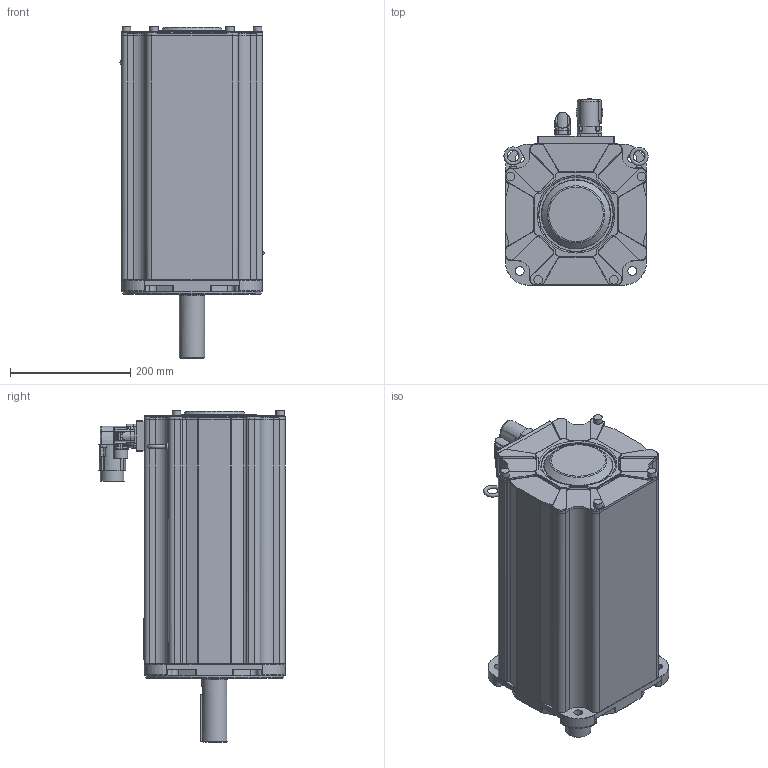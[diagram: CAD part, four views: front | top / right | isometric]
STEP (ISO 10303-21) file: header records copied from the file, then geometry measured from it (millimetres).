
FILE_DESCRIPTION((''),'2;1');
FILE_NAME('C:\CAD_work\Dummy_Modeling_Project_02-12-05\3D MODELS\MPP2308XXX_NPSB.stp','2006-02-03T10:34:28',('jevans'),(''),'Autodesk Inventor 10','Autodesk Inventor 10','');
FILE_SCHEMA(('AUTOMOTIVE_DESIGN { 1 0 10303 214 1 1 1 1 }'));
Length unit declared in the file: inch
Products named in the file (1): MPP230_MOTOR
Bounding box: 240.23 x 310.16 x 553.19 mm (x, y, z)
Volume: 21167822.5 mm3; surface area: 620621.5 mm2
Topology: 1 solids, 3 shells, 920 faces, 2327 edges, 1470 vertices
Faces by surface type: cylinder 392, plane 350, bspline 110, torus 52, cone 16
Full cylindrical faces by diameter (mm): 1.016 x17, 2 x2, 3.6 x4, 14.275 x4, 19.05 x1, 19.685 x1, 22.86 x1, 32.639 x1, 39.624 x1, 41.656 x1, 42.012 x1, 44.907 x1, 45.009 x1, 57.15 x1, 75.024 x1, 80.01 x1, 91.44 x1, 100 x1, 100.018 x1, 100.272 x2, 114.299 x1, 114.3 x1, 124.46 x1, 230.001 x1
Entity records: 31140 total; most frequent: CARTESIAN_POINT 9552, DIRECTION 4559, ORIENTED_EDGE 4422, EDGE_CURVE 2211, AXIS2_PLACEMENT_3D 1755, VERTEX_POINT 1435, EDGE_LOOP 1070, VECTOR 1049
